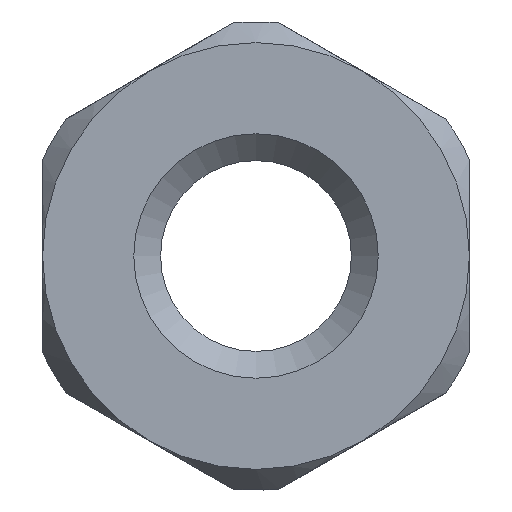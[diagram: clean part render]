
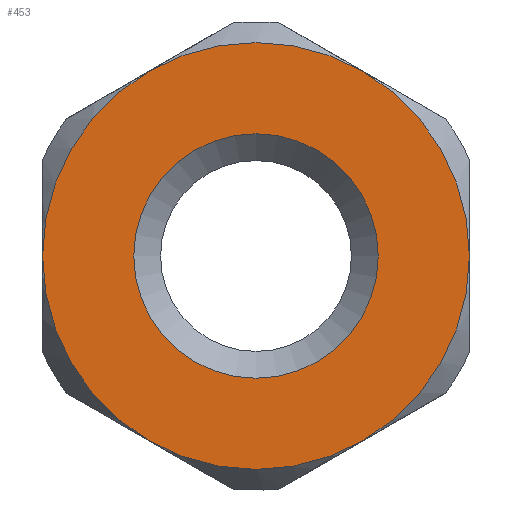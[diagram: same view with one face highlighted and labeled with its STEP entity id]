
A CAD part, front view. The second image highlights one B-rep face of the part: STEP entity #453.
In plain terms, the highlighted planar face has unit normal (0, -1, 0).
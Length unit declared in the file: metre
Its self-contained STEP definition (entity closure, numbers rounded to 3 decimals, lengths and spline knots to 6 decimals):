
#81=ORIENTED_EDGE('',*,*,#221,.T.);
#82=ORIENTED_EDGE('',*,*,#222,.F.);
#83=ORIENTED_EDGE('',*,*,#223,.F.);
#84=ORIENTED_EDGE('',*,*,#224,.F.);
#85=ORIENTED_EDGE('',*,*,#225,.F.);
#86=ORIENTED_EDGE('',*,*,#226,.F.);
#87=ORIENTED_EDGE('',*,*,#227,.F.);
#221=EDGE_CURVE('',#291,#291,#337,.T.);
#222=EDGE_CURVE('',#292,#293,#338,.T.);
#223=EDGE_CURVE('',#294,#292,#339,.T.);
#224=EDGE_CURVE('',#295,#294,#340,.T.);
#225=EDGE_CURVE('',#296,#295,#341,.T.);
#226=EDGE_CURVE('',#297,#296,#342,.T.);
#227=EDGE_CURVE('',#293,#297,#343,.T.);
#291=VERTEX_POINT('',#725);
#292=VERTEX_POINT('',#727);
#293=VERTEX_POINT('',#728);
#294=VERTEX_POINT('',#730);
#295=VERTEX_POINT('',#732);
#296=VERTEX_POINT('',#734);
#297=VERTEX_POINT('',#736);
#337=CIRCLE('',#496,0.001575);
#338=CIRCLE('',#497,0.00275);
#339=CIRCLE('',#498,0.00275);
#340=CIRCLE('',#499,0.00275);
#341=CIRCLE('',#500,0.00275);
#342=CIRCLE('',#501,0.00275);
#343=CIRCLE('',#502,0.00275);
#377=EDGE_LOOP('',(#81));
#378=EDGE_LOOP('',(#82,#83,#84,#85,#86,#87));
#411=FACE_BOUND('',#377,.T.);
#412=FACE_BOUND('',#378,.T.);
#445=PLANE('',#495);
#453=ADVANCED_FACE('',(#411,#412),#445,.F.);
#495=AXIS2_PLACEMENT_3D('',#723,#566,#567);
#496=AXIS2_PLACEMENT_3D('',#724,#568,#569);
#497=AXIS2_PLACEMENT_3D('',#726,#570,#571);
#498=AXIS2_PLACEMENT_3D('',#729,#572,#573);
#499=AXIS2_PLACEMENT_3D('',#731,#574,#575);
#500=AXIS2_PLACEMENT_3D('',#733,#576,#577);
#501=AXIS2_PLACEMENT_3D('',#735,#578,#579);
#502=AXIS2_PLACEMENT_3D('',#737,#580,#581);
#566=DIRECTION('',(0.,1.,0.));
#567=DIRECTION('',(0.,0.,-1.));
#568=DIRECTION('',(0.,1.,0.));
#569=DIRECTION('',(0.,0.,-1.));
#570=DIRECTION('',(0.,1.,0.));
#571=DIRECTION('',(0.,0.,-1.));
#572=DIRECTION('',(0.,1.,0.));
#573=DIRECTION('',(0.,0.,-1.));
#574=DIRECTION('',(0.,1.,0.));
#575=DIRECTION('',(0.,0.,-1.));
#576=DIRECTION('',(0.,1.,0.));
#577=DIRECTION('',(0.,0.,-1.));
#578=DIRECTION('',(0.,1.,0.));
#579=DIRECTION('',(0.,0.,-1.));
#580=DIRECTION('',(0.,1.,0.));
#581=DIRECTION('',(0.,0.,-1.));
#723=CARTESIAN_POINT('',(0.29622,-0.041769,-0.044607));
#724=CARTESIAN_POINT('',(0.29622,-0.041769,-0.044607));
#725=CARTESIAN_POINT('',(0.29622,-0.041769,-0.046182));
#726=CARTESIAN_POINT('',(0.29622,-0.041769,-0.044607));
#727=CARTESIAN_POINT('',(0.297595,-0.041769,-0.046989));
#728=CARTESIAN_POINT('',(0.294845,-0.041769,-0.046989));
#729=CARTESIAN_POINT('',(0.29622,-0.041769,-0.044607));
#730=CARTESIAN_POINT('',(0.29897,-0.041769,-0.044607));
#731=CARTESIAN_POINT('',(0.29622,-0.041769,-0.044607));
#732=CARTESIAN_POINT('',(0.297595,-0.041769,-0.042226));
#733=CARTESIAN_POINT('',(0.29622,-0.041769,-0.044607));
#734=CARTESIAN_POINT('',(0.294845,-0.041769,-0.042226));
#735=CARTESIAN_POINT('',(0.29622,-0.041769,-0.044607));
#736=CARTESIAN_POINT('',(0.29347,-0.041769,-0.044607));
#737=CARTESIAN_POINT('',(0.29622,-0.041769,-0.044607));
